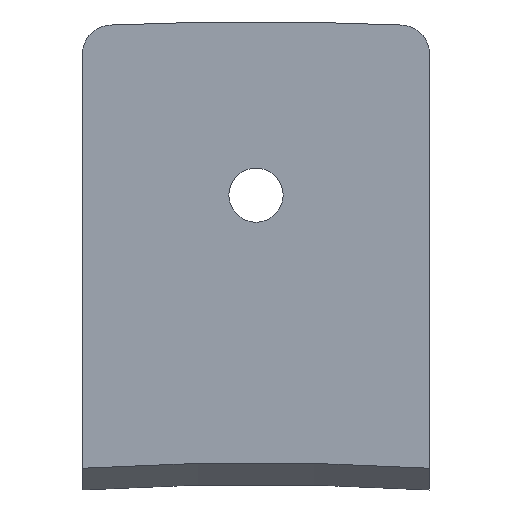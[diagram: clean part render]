
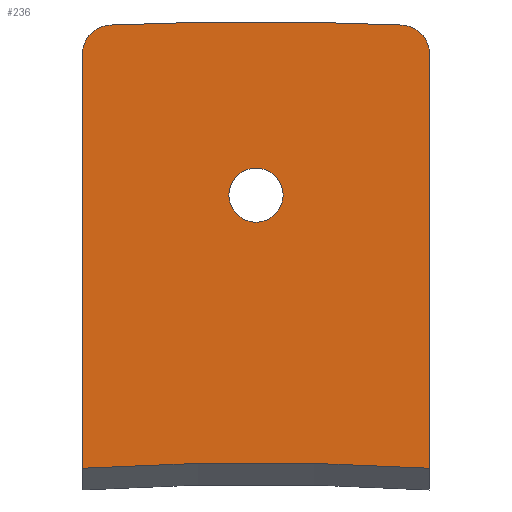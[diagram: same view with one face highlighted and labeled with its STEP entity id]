
A CAD part, top view. The second image highlights one B-rep face of the part: STEP entity #236.
In plain terms, the highlighted planar face has unit normal (0, 0, 1).
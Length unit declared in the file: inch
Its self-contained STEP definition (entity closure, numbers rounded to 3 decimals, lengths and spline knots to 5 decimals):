
#8 = CARTESIAN_POINT ( 'NONE',  ( 541.63119, 61.04975, 0. ) ) ;
#15 = EDGE_LOOP ( 'NONE', ( #152 ) ) ;
#17 = LINE ( 'NONE', #20, #88 ) ;
#20 = CARTESIAN_POINT ( 'NONE',  ( 536.10772, 53.01055, 0. ) ) ;
#26 = EDGE_CURVE ( 'NONE', #328, #150, #17, .T. ) ;
#32 = AXIS2_PLACEMENT_3D ( 'NONE', #148, #225, #273 ) ;
#37 = ORIENTED_EDGE ( 'NONE', *, *, #331, .T. ) ;
#50 = AXIS2_PLACEMENT_3D ( 'NONE', #79, #162, #262 ) ;
#54 = CIRCLE ( 'NONE', #120, 0.5 ) ;
#59 = ORIENTED_EDGE ( 'NONE', *, *, #164, .T. ) ;
#69 = AXIS2_PLACEMENT_3D ( 'NONE', #234, #290, #129 ) ;
#72 = EDGE_CURVE ( 'NONE', #150, #248, #219, .T. ) ;
#73 = VERTEX_POINT ( 'NONE', #237 ) ;
#77 = CIRCLE ( 'NONE', #50, 0.5 ) ;
#79 = CARTESIAN_POINT ( 'NONE',  ( 536.60772, 60.5503, 0. ) ) ;
#81 = CARTESIAN_POINT ( 'NONE',  ( 536.10772, 53.3863, 0. ) ) ;
#88 = VECTOR ( 'NONE', #101, 39.37008 ) ;
#91 = CARTESIAN_POINT ( 'NONE',  ( 542.10772, 60.5503, 0. ) ) ;
#96 = CARTESIAN_POINT ( 'NONE',  ( 541.60772, 60.5503, 0. ) ) ;
#100 = CARTESIAN_POINT ( 'NONE',  ( 539.57647, 58.10902, 0. ) ) ;
#101 = DIRECTION ( 'NONE',  ( 0., -1., 0. ) ) ;
#114 = EDGE_CURVE ( 'NONE', #248, #274, #318, .T. ) ;
#120 = AXIS2_PLACEMENT_3D ( 'NONE', #235, #128, #239 ) ;
#123 = FACE_BOUND ( 'NONE', #15, .T. ) ;
#124 = ORIENTED_EDGE ( 'NONE', *, *, #114, .T. ) ;
#128 = DIRECTION ( 'NONE',  ( 0., 0., 1. ) ) ;
#129 = DIRECTION ( 'NONE',  ( 1., 0., 0. ) ) ;
#136 = DIRECTION ( 'NONE',  ( 0., 1., 0. ) ) ;
#143 = DIRECTION ( 'NONE',  ( 0., 0., 1. ) ) ;
#147 = ORIENTED_EDGE ( 'NONE', *, *, #72, .T. ) ;
#148 = CARTESIAN_POINT ( 'NONE',  ( 539.10772, 7.35902, 0. ) ) ;
#150 = VERTEX_POINT ( 'NONE', #81 ) ;
#152 = ORIENTED_EDGE ( 'NONE', *, *, #211, .F. ) ;
#162 = DIRECTION ( 'NONE',  ( 0., 0., 1. ) ) ;
#163 = CARTESIAN_POINT ( 'NONE',  ( 542.10772, 53.01055, 0. ) ) ;
#164 = EDGE_CURVE ( 'NONE', #73, #328, #77, .T. ) ;
#171 = DIRECTION ( 'NONE',  ( 1., 0., 0. ) ) ;
#173 = CARTESIAN_POINT ( 'NONE',  ( 539.10772, 58.10902, 0. ) ) ;
#188 = ORIENTED_EDGE ( 'NONE', *, *, #26, .T. ) ;
#195 = EDGE_LOOP ( 'NONE', ( #188, #147, #124, #37, #229, #59 ) ) ;
#199 = VERTEX_POINT ( 'NONE', #8 ) ;
#211 = EDGE_CURVE ( 'NONE', #281, #281, #276, .T. ) ;
#219 = CIRCLE ( 'NONE', #69, 47.625 ) ;
#220 = AXIS2_PLACEMENT_3D ( 'NONE', #173, #327, #171 ) ;
#225 = DIRECTION ( 'NONE',  ( 0., 0., 1. ) ) ;
#229 = ORIENTED_EDGE ( 'NONE', *, *, #268, .T. ) ;
#230 = FACE_OUTER_BOUND ( 'NONE', #195, .T. ) ;
#234 = CARTESIAN_POINT ( 'NONE',  ( 539.10772, 5.85588, 0. ) ) ;
#235 = CARTESIAN_POINT ( 'NONE',  ( 541.60772, 60.5503, 0. ) ) ;
#236 = ADVANCED_FACE ( 'NONE', ( #123, #230 ), #324, .T. ) ;
#237 = CARTESIAN_POINT ( 'NONE',  ( 536.58424, 61.04975, 0. ) ) ;
#239 = DIRECTION ( 'NONE',  ( 1., 0., 0. ) ) ;
#247 = DIRECTION ( 'NONE',  ( 1., 0., 0. ) ) ;
#248 = VERTEX_POINT ( 'NONE', #319 ) ;
#260 = CARTESIAN_POINT ( 'NONE',  ( 536.10772, 60.5503, 0. ) ) ;
#262 = DIRECTION ( 'NONE',  ( 1., 0., 0. ) ) ;
#264 = CIRCLE ( 'NONE', #32, 53.75 ) ;
#268 = EDGE_CURVE ( 'NONE', #199, #73, #264, .T. ) ;
#269 = VECTOR ( 'NONE', #136, 39.37008 ) ;
#273 = DIRECTION ( 'NONE',  ( 1., 0., 0. ) ) ;
#274 = VERTEX_POINT ( 'NONE', #91 ) ;
#276 = CIRCLE ( 'NONE', #220, 0.46875 ) ;
#281 = VERTEX_POINT ( 'NONE', #100 ) ;
#290 = DIRECTION ( 'NONE',  ( 0., 0., -1. ) ) ;
#318 = LINE ( 'NONE', #163, #269 ) ;
#319 = CARTESIAN_POINT ( 'NONE',  ( 542.10772, 53.3863, 0. ) ) ;
#324 = PLANE ( 'NONE',  #338 ) ;
#327 = DIRECTION ( 'NONE',  ( 0., 0., 1. ) ) ;
#328 = VERTEX_POINT ( 'NONE', #260 ) ;
#331 = EDGE_CURVE ( 'NONE', #274, #199, #54, .T. ) ;
#338 = AXIS2_PLACEMENT_3D ( 'NONE', #96, #143, #247 ) ;
